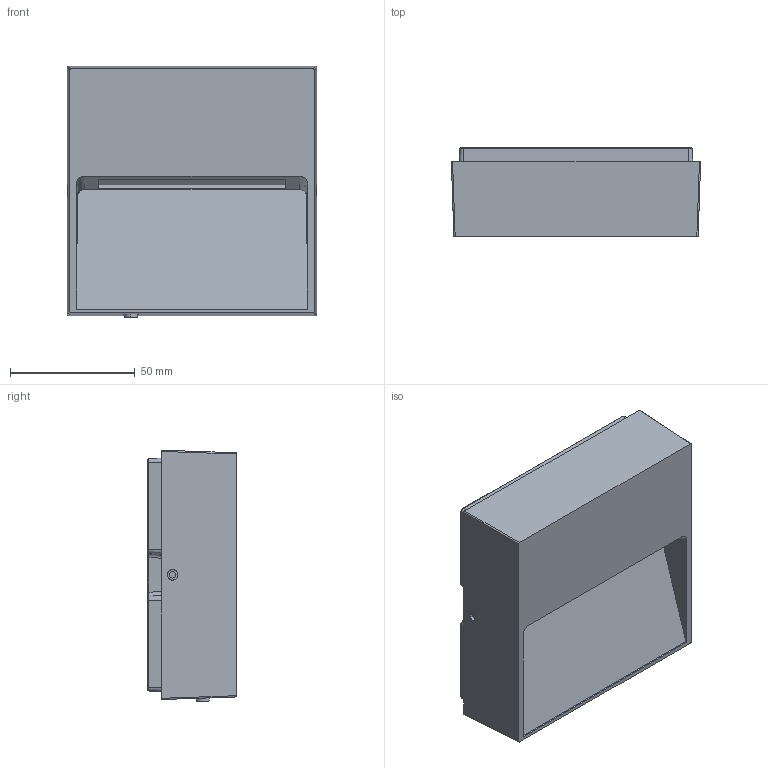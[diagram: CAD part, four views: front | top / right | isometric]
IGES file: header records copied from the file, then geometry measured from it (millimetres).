
Start section: SolidWorks IGES file using analytic representation for surfaces
Global section: file name: \\192.168.111.232\grupos\DISENYO\DESARROLLO DE PRODUCTO\NASHIRA - 2062\NASHIRA - A20620 - APLIQUE CUADRADO\NASHIRA - A20620 - APLIQUE CUADRADO.IGS; native system: SolidWorks 2025; preprocessor: SolidWorks 2025; author: o.domenech; date: 260122.084902; units: millimetre
Bounding box: 100 x 35.5 x 100.92 mm (x, y, z)
Surface area: 60132.3 mm2 (no closed solid volume)
Topology: 0 solids, 3 shells, 857 faces, 4618 edges, 6106 vertices
Faces by surface type: plane 592, revolution 175, bspline 90
